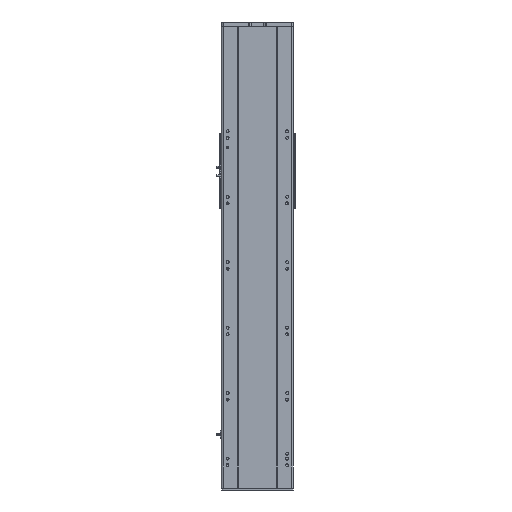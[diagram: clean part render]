
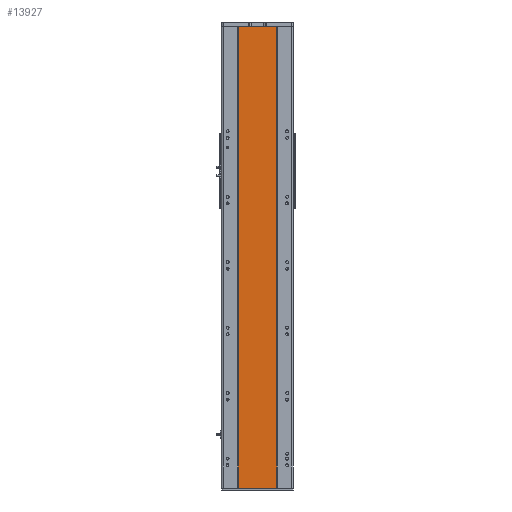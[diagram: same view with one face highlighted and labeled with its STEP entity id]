
A CAD part, front view. The second image highlights one B-rep face of the part: STEP entity #13927.
In plain terms, the highlighted planar face has unit normal (0, -1, 0).
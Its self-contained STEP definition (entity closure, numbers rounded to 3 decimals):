
#801 = VERTEX_POINT ( 'NONE', #28830 ) ;
#1507 = VERTEX_POINT ( 'NONE', #36509 ) ;
#2747 = DIRECTION ( 'NONE',  ( 0., 1., 0. ) ) ;
#3625 = DIRECTION ( 'NONE',  ( 0., 0., -1. ) ) ;
#5371 = LINE ( 'NONE', #24543, #35964 ) ;
#7288 = VERTEX_POINT ( 'NONE', #19932 ) ;
#7328 = CARTESIAN_POINT ( 'NONE',  ( -59., 1., 705.5 ) ) ;
#9020 = LINE ( 'NONE', #20466, #23604 ) ;
#9428 = CARTESIAN_POINT ( 'NONE',  ( 59., 1., 705.5 ) ) ;
#13566 = ORIENTED_EDGE ( 'NONE', *, *, #23946, .T. ) ;
#13666 = ORIENTED_EDGE ( 'NONE', *, *, #27984, .F. ) ;
#13704 = VECTOR ( 'NONE', #30685, 1000. ) ;
#13927 = ADVANCED_FACE ( 'NONE', ( #16506 ), #26445, .F. ) ;
#14447 = DIRECTION ( 'NONE',  ( 1., 0., 0. ) ) ;
#15006 = VERTEX_POINT ( 'NONE', #9428 ) ;
#16506 = FACE_OUTER_BOUND ( 'NONE', #20907, .T. ) ;
#18428 = VECTOR ( 'NONE', #3625, 1000. ) ;
#19932 = CARTESIAN_POINT ( 'NONE',  ( -59., 1., -705.5 ) ) ;
#20375 = CARTESIAN_POINT ( 'NONE',  ( -59., 1., 705.5 ) ) ;
#20466 = CARTESIAN_POINT ( 'NONE',  ( -59., 1., -705.5 ) ) ;
#20907 = EDGE_LOOP ( 'NONE', ( #33408, #26416, #13666, #13566 ) ) ;
#21070 = LINE ( 'NONE', #7328, #13704 ) ;
#23503 = DIRECTION ( 'NONE',  ( -1., 0., 0. ) ) ;
#23604 = VECTOR ( 'NONE', #14447, 1000. ) ;
#23862 = LINE ( 'NONE', #26334, #18428 ) ;
#23946 = EDGE_CURVE ( 'NONE', #1507, #7288, #5371, .T. ) ;
#24543 = CARTESIAN_POINT ( 'NONE',  ( -59., 1., 705.5 ) ) ;
#24792 = DIRECTION ( 'NONE',  ( 0., 0., -1. ) ) ;
#26334 = CARTESIAN_POINT ( 'NONE',  ( 59., 1., 705.5 ) ) ;
#26416 = ORIENTED_EDGE ( 'NONE', *, *, #33384, .F. ) ;
#26445 = PLANE ( 'NONE',  #30428 ) ;
#27984 = EDGE_CURVE ( 'NONE', #1507, #15006, #21070, .T. ) ;
#28830 = CARTESIAN_POINT ( 'NONE',  ( 59., 1., -705.5 ) ) ;
#30428 = AXIS2_PLACEMENT_3D ( 'NONE', #20375, #2747, #23503 ) ;
#30685 = DIRECTION ( 'NONE',  ( 1., 0., 0. ) ) ;
#31056 = EDGE_CURVE ( 'NONE', #7288, #801, #9020, .T. ) ;
#33384 = EDGE_CURVE ( 'NONE', #15006, #801, #23862, .T. ) ;
#33408 = ORIENTED_EDGE ( 'NONE', *, *, #31056, .T. ) ;
#35964 = VECTOR ( 'NONE', #24792, 1000. ) ;
#36509 = CARTESIAN_POINT ( 'NONE',  ( -59., 1., 705.5 ) ) ;
